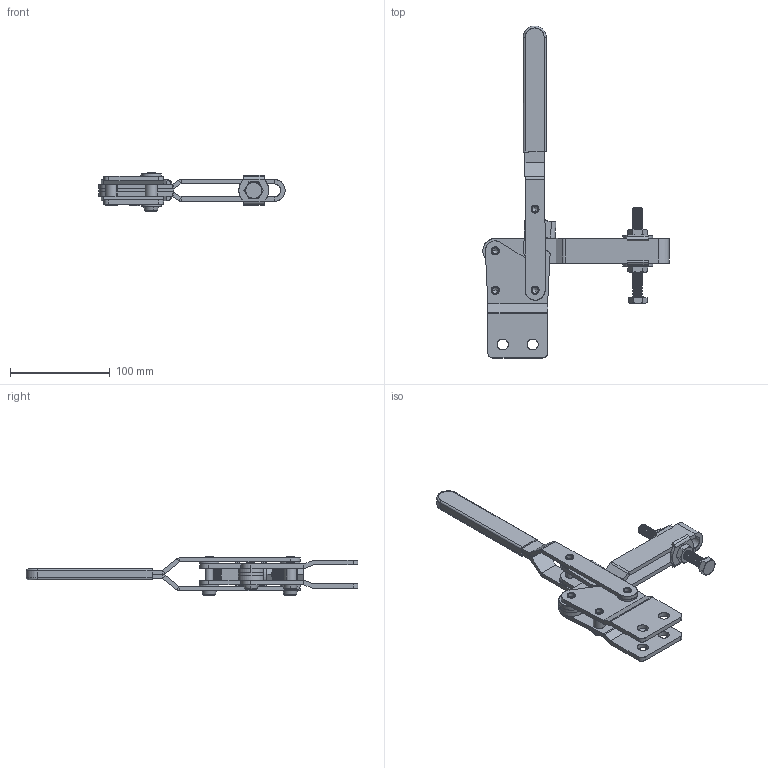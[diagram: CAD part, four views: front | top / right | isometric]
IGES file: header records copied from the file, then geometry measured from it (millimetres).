
Start section: SolidWorks IGES file using analytic representation for surfaces
Global section: file name: \\BARTOP_SV6\share\SOLIDWORKS\工具事業部\坂入用\受け渡し\作業中\2015.06.30\ISK-41BS中0\ISK-41BS中0.IGS; native system: SolidWorks 2015; preprocessor: SolidWorks 2015; author: SOLID02; date: 150630.154248; units: millimetre
Bounding box: 187.02 x 333.31 x 38.24 mm (x, y, z)
Surface area: 125793.9 mm2 (no closed solid volume)
Topology: 0 solids, 0 shells, 855 faces, 8913 edges, 8905 vertices
Faces by surface type: revolution 604, bspline 251
